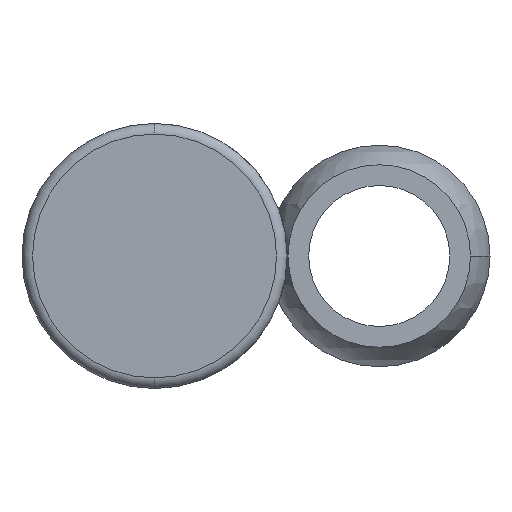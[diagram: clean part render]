
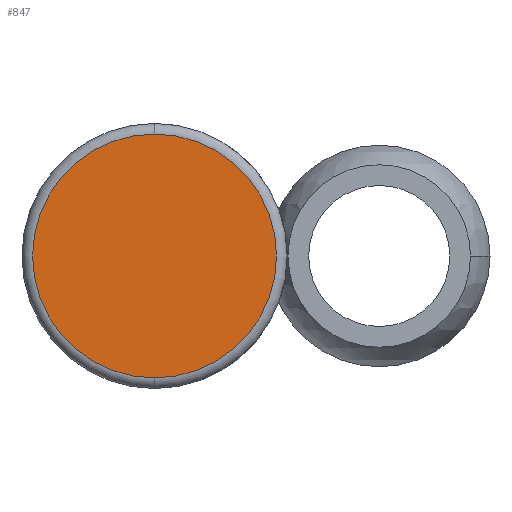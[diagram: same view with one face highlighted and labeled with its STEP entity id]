
A CAD part, front view. The second image highlights one B-rep face of the part: STEP entity #847.
In plain terms, the highlighted planar face has unit normal (0, -1, 0).
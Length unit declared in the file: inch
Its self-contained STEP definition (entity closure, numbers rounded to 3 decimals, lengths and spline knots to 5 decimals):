
#5 = AXIS2_PLACEMENT_3D ( 'NONE', #189, #304, #1327 ) ;
#8 = CARTESIAN_POINT ( 'NONE',  ( 0., -1.26, 0. ) ) ;
#50 = DIRECTION ( 'NONE',  ( 0., 0., 1. ) ) ;
#113 = CIRCLE ( 'NONE', #5, 0.34402 ) ;
#146 = CARTESIAN_POINT ( 'NONE',  ( 0., -1.26, -0.34402 ) ) ;
#189 = CARTESIAN_POINT ( 'NONE',  ( 0., -1.26, 0. ) ) ;
#249 = VERTEX_POINT ( 'NONE', #964 ) ;
#304 = DIRECTION ( 'NONE',  ( 0., -1., 0. ) ) ;
#338 = AXIS2_PLACEMENT_3D ( 'NONE', #8, #828, #416 ) ;
#416 = DIRECTION ( 'NONE',  ( 0., 0., 1. ) ) ;
#639 = ORIENTED_EDGE ( 'NONE', *, *, #1249, .T. ) ;
#672 = CARTESIAN_POINT ( 'NONE',  ( 0., -1.26, 0. ) ) ;
#828 = DIRECTION ( 'NONE',  ( 0., 1., 0. ) ) ;
#847 = ADVANCED_FACE ( 'NONE', ( #935 ), #1044, .F. ) ;
#919 = AXIS2_PLACEMENT_3D ( 'NONE', #672, #1289, #50 ) ;
#921 = VERTEX_POINT ( 'NONE', #146 ) ;
#935 = FACE_OUTER_BOUND ( 'NONE', #1130, .T. ) ;
#942 = EDGE_CURVE ( 'NONE', #921, #249, #1132, .T. ) ;
#964 = CARTESIAN_POINT ( 'NONE',  ( 0., -1.26, 0.34402 ) ) ;
#1044 = PLANE ( 'NONE',  #338 ) ;
#1130 = EDGE_LOOP ( 'NONE', ( #639, #1293 ) ) ;
#1132 = CIRCLE ( 'NONE', #919, 0.34402 ) ;
#1249 = EDGE_CURVE ( 'NONE', #249, #921, #113, .T. ) ;
#1289 = DIRECTION ( 'NONE',  ( 0., -1., 0. ) ) ;
#1293 = ORIENTED_EDGE ( 'NONE', *, *, #942, .T. ) ;
#1327 = DIRECTION ( 'NONE',  ( 0., 0., 1. ) ) ;
